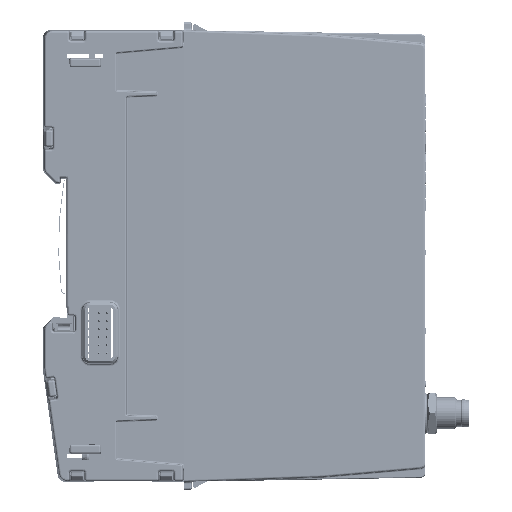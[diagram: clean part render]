
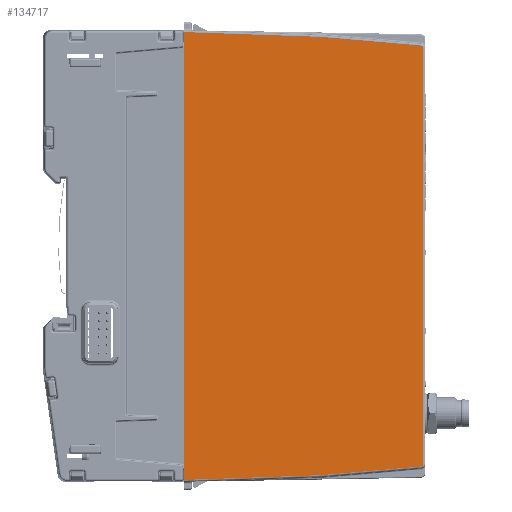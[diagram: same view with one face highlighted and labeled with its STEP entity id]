
A CAD part, left-side view. The second image highlights one B-rep face of the part: STEP entity #134717.
In plain terms, the highlighted planar face has unit normal (-1, -0.018, 0).
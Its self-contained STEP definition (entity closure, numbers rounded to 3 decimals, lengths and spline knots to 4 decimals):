
#758=ELLIPSE('',#142544,0.0315,0.0315);
#760=ELLIPSE('',#142549,0.0315,0.0315);
#4782=PLANE('',#143289);
#10223=FACE_OUTER_BOUND('',#17580,.T.);
#17580=EDGE_LOOP('',(#94669,#94670,#94671,#94672,#94673,#94674,#94675,#94676,
#94677,#94678));
#25551=LINE('',#199652,#39448);
#25761=LINE('',#201307,#39658);
#25762=LINE('',#201332,#39659);
#25766=LINE('',#201360,#39663);
#26137=LINE('',#204427,#40034);
#26140=LINE('',#204432,#40037);
#26263=LINE('',#205236,#40160);
#26264=LINE('',#205238,#40161);
#39448=VECTOR('',#157138,39.3701);
#39658=VECTOR('',#158012,39.3701);
#39659=VECTOR('',#158023,39.3701);
#39663=VECTOR('',#158037,39.3701);
#40034=VECTOR('',#159578,39.3701);
#40037=VECTOR('',#159583,39.3701);
#40160=VECTOR('',#160006,39.3701);
#40161=VECTOR('',#160009,39.3701);
#56244=VERTEX_POINT('',#199649);
#56245=VERTEX_POINT('',#199651);
#56570=VERTEX_POINT('',#201299);
#56572=VERTEX_POINT('',#201305);
#56574=VERTEX_POINT('',#201324);
#56576=VERTEX_POINT('',#201330);
#56578=VERTEX_POINT('',#201352);
#56580=VERTEX_POINT('',#201358);
#57035=VERTEX_POINT('',#204425);
#57036=VERTEX_POINT('',#204431);
#69604=EDGE_CURVE('',#56244,#56245,#25551,.T.);
#70063=EDGE_CURVE('',#56570,#56572,#25761,.T.);
#70065=EDGE_CURVE('',#56572,#56574,#758,.T.);
#70068=EDGE_CURVE('',#56574,#56576,#25762,.T.);
#70073=EDGE_CURVE('',#56576,#56578,#760,.T.);
#70076=EDGE_CURVE('',#56578,#56580,#25766,.T.);
#70863=EDGE_CURVE('',#56244,#57035,#26137,.T.);
#70866=EDGE_CURVE('',#57036,#56245,#26140,.T.);
#71064=EDGE_CURVE('',#56580,#57036,#26263,.T.);
#71065=EDGE_CURVE('',#57035,#56570,#26264,.T.);
#94669=ORIENTED_EDGE('',*,*,#71064,.T.);
#94670=ORIENTED_EDGE('',*,*,#70866,.T.);
#94671=ORIENTED_EDGE('',*,*,#69604,.F.);
#94672=ORIENTED_EDGE('',*,*,#70863,.T.);
#94673=ORIENTED_EDGE('',*,*,#71065,.T.);
#94674=ORIENTED_EDGE('',*,*,#70063,.T.);
#94675=ORIENTED_EDGE('',*,*,#70065,.T.);
#94676=ORIENTED_EDGE('',*,*,#70068,.T.);
#94677=ORIENTED_EDGE('',*,*,#70073,.T.);
#94678=ORIENTED_EDGE('',*,*,#70076,.T.);
#134717=ADVANCED_FACE('',(#10223),#4782,.T.);
#142544=AXIS2_PLACEMENT_3D('',#201326,#158015,#158016);
#142549=AXIS2_PLACEMENT_3D('',#201354,#158029,#158030);
#143289=AXIS2_PLACEMENT_3D('',#205237,#160007,#160008);
#157138=DIRECTION('',(0.,0.,1.));
#158012=DIRECTION('',(0.017,-0.996,0.087));
#158015=DIRECTION('center_axis',(-1.,-0.017,
0.));
#158016=DIRECTION('ref_axis',(0.017,-1.,0.));
#158023=DIRECTION('',(0.,0.,1.));
#158029=DIRECTION('center_axis',(-1.,-0.017,
0.));
#158030=DIRECTION('ref_axis',(0.017,-1.,0.));
#158037=DIRECTION('',(-0.017,0.996,0.087));
#159578=DIRECTION('',(0.,0.,-1.));
#159583=DIRECTION('',(0.,0.,-1.));
#160006=DIRECTION('',(-0.017,0.999,0.035));
#160007=DIRECTION('center_axis',(-1.,-0.017,
0.));
#160008=DIRECTION('ref_axis',(-0.017,1.,0.));
#160009=DIRECTION('',(0.017,-0.999,0.035));
#199649=CARTESIAN_POINT('',(-0.0227,-0.8686,-4.1027));
#199651=CARTESIAN_POINT('',(-0.0227,-0.8686,-0.0312));
#199652=CARTESIAN_POINT('',(-0.0227,-0.8686,-7.5932));
#201299=CARTESIAN_POINT('',(0.0007,-2.2063,-4.1954));
#201305=CARTESIAN_POINT('',(0.0174,-3.163,-4.1117));
#201307=CARTESIAN_POINT('',(-0.0261,-0.6728,-4.3296));
#201324=CARTESIAN_POINT('',(0.0179,-3.1918,-4.0803));
#201326=CARTESIAN_POINT('Origin',(0.0173,-3.1603,-4.0803));
#201330=CARTESIAN_POINT('',(0.0179,-3.1918,-0.0535));
#201332=CARTESIAN_POINT('',(0.0179,-3.1918,-0.0535));
#201352=CARTESIAN_POINT('',(0.0174,-3.163,-0.0221));
#201354=CARTESIAN_POINT('Origin',(0.0173,-3.1603,
-0.0535));
#201358=CARTESIAN_POINT('',(0.0007,-2.2063,0.0616));
#201360=CARTESIAN_POINT('',(-0.0261,-0.6728,0.1957));
#204425=CARTESIAN_POINT('',(-0.0227,-0.8686,-4.2421));
#204427=CARTESIAN_POINT('',(-0.0227,-0.8686,0.128));
#204431=CARTESIAN_POINT('',(-0.0227,-0.8686,0.1083));
#204432=CARTESIAN_POINT('',(-0.0227,-0.8686,0.128));
#205236=CARTESIAN_POINT('',(-0.0282,-0.5512,0.1194));
#205237=CARTESIAN_POINT('Origin',(-0.0295,-0.4749,
-2.0669));
#205238=CARTESIAN_POINT('',(-0.0282,-0.5512,-4.2532));
